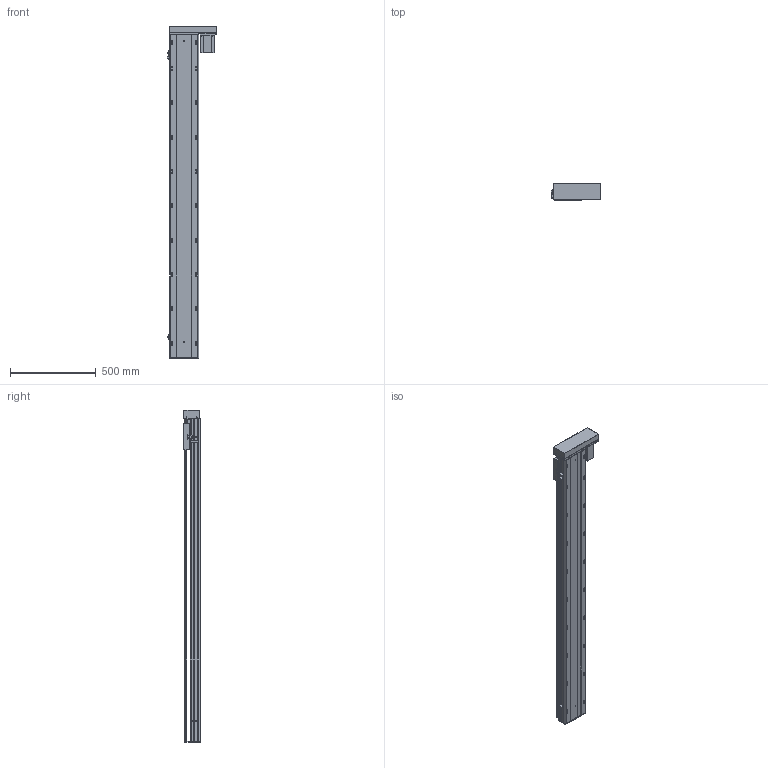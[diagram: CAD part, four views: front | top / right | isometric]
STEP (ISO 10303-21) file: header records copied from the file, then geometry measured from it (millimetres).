
FILE_DESCRIPTION (( 'STEP AP203' ), '1' );
FILE_NAME ('Y170-D10-S1600-BR-P750W.STEP', '2020-01-21T12:57:49', ( '微软用户' ), ( '微软中国' ), 'SwSTEP 2.0', 'SolidWorks 2017', '' );
FILE_SCHEMA (( 'CONFIG_CONTROL_DESIGN' ));
Length unit declared in the file: millimetre
Products named in the file (12): Y170-陔遴奻裔-BR; Y-BL.BR-俋欶; Y170耜裔--準---; Y--BL蟀諉啣-陔遴-; 170--掛极-BR; YD-Y100-135-新外置传感挡片(通用）; Y雄赽釱-耜蚾; Y170-BL-P750W楊擘啣; Y100-135俋离換覜ん; 侂狟750W; Y170-D10-S1600-BR-P750W; EGH20賑輸_蕼偞
Assembly tree (14 placements, depth 2):
  Y170-D10-S1600-BR-P750W
    Y170耜裔--準---
    170--掛极-BR
    Y170-BL-P750W楊擘啣
    侂狟750W
    EGH20賑輸_蕼偞  x2
    Y雄赽釱-耜蚾
    Y170-陔遴奻裔-BR
    Y-BL.BR-俋欶
    Y--BL蟀諉啣-陔遴-
    YD-Y100-135-新外置传感挡片(通用）
    Y100-135俋离換覜ん  x3
Bounding box: 289 x 97 x 1933.5 mm (x, y, z)
Volume: 8501087.4 mm3; surface area: 3015177.4 mm2
Topology: 14 solids, 14 shells, 969 faces, 2786 edges, 1840 vertices
Faces by surface type: cylinder 510, plane 443, cone 16
Entity records: 31370 total; most frequent: CARTESIAN_POINT 5758, DIRECTION 5148, ORIENTED_EDGE 5068, EDGE_CURVE 2534, AXIS2_PLACEMENT_3D 1842, VERTEX_POINT 1684, LINE 1464, VECTOR 1464
